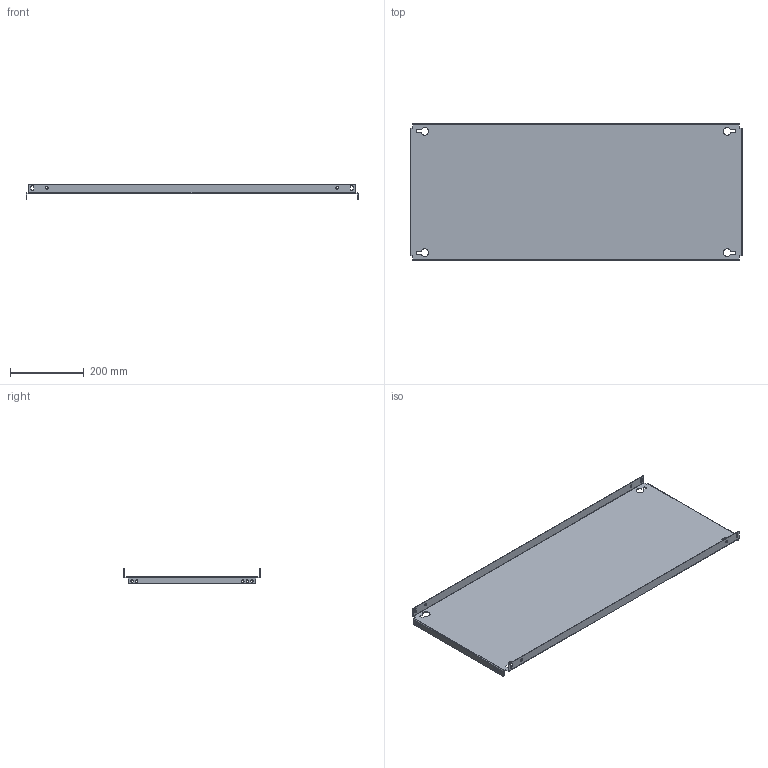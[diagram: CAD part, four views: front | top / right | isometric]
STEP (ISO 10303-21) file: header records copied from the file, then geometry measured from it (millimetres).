
FILE_DESCRIPTION (( 'STEP AP203' ), '1' );
FILE_NAME ('R5PPS4010.STEP', '2021-12-20T07:04:44', ( '' ), ( '' ), 'SwSTEP 2.0', 'SolidWorks 2020', '' );
FILE_SCHEMA (( 'CONFIG_CONTROL_DESIGN' ));
Length unit declared in the file: millimetre
Products named in the file (1): R5PPS4010
Bounding box: 900 x 369 x 43 mm (x, y, z)
Volume: 763011.1 mm3; surface area: 770002 mm2
Topology: 1 solids, 1 shells, 136 faces, 370 edges, 236 vertices
Faces by surface type: cylinder 78, plane 58
Entity records: 4479 total; most frequent: DIRECTION 800, CARTESIAN_POINT 743, ORIENTED_EDGE 740, EDGE_CURVE 370, AXIS2_PLACEMENT_3D 293, VERTEX_POINT 236, LINE 214, VECTOR 214
